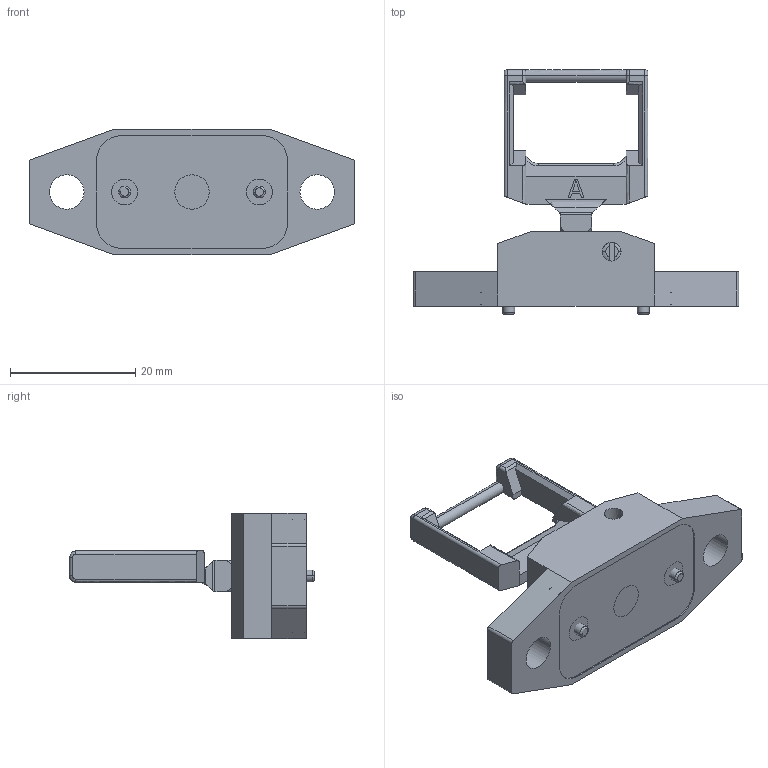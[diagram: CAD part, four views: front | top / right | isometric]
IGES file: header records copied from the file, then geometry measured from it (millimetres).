
Start section:  PTC IGES file: 2017289
Global section: file name: 2017289; native system: Creo Parametric by Parametric Technology Corporation; preprocessor: 2014310; author: rink; organization: Unknown; date: 20150319.133541; units: millimetre
Bounding box: 52 x 39.1 x 20 mm (x, y, z)
Surface area: 9225.5 mm2 (no closed solid volume)
Topology: 0 solids, 0 shells, 362 faces, 3348 edges, 4062 vertices
Faces by surface type: revolution 190, bspline 172
